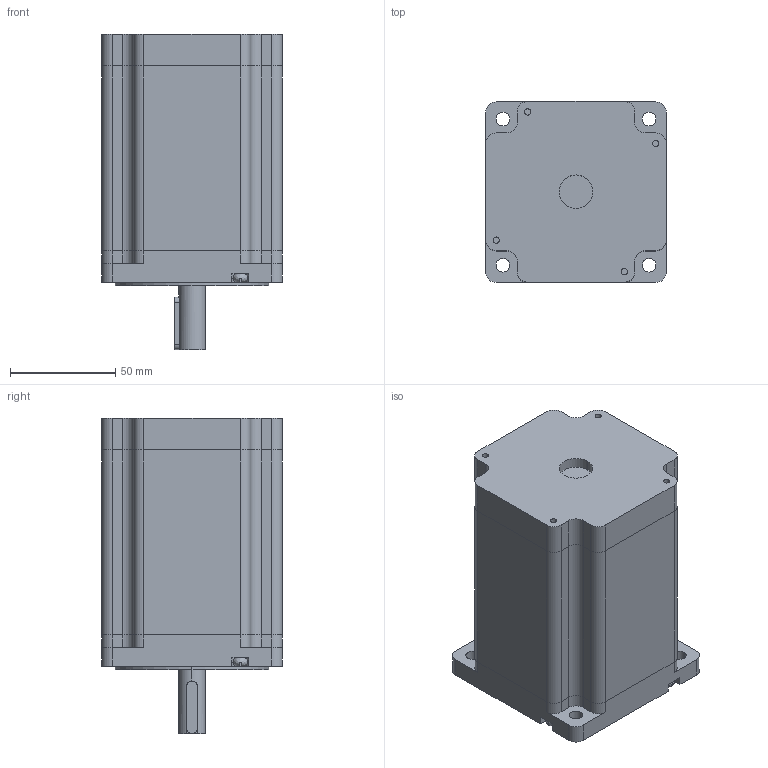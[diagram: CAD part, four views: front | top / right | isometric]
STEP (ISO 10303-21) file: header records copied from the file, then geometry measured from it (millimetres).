
FILE_DESCRIPTION (( 'STEP AP203' ), '1' );
FILE_NAME ('86J18118-842 (K).STEP', '2020-05-15T08:27:36', ( 'USER-' ), ( 'MS' ), 'SwSTEP 2.0', 'SolidWorks 2018', '' );
FILE_SCHEMA (( 'CONFIG_CONTROL_DESIGN' ));
Length unit declared in the file: millimetre
Products named in the file (7): 86____ ______^86J18118-842 (K)(2)_86J18118-842 (K); 86J18118-842 (K)(2)^86J18118-842 (K); 86J18118-842 (K); ____1^86J18118-842 (K)(2)_86J18118-842 (K); ____2^86J18118-842 (K)(2)_86J18118-842 (K); 86____^86J18118-842 (K)(2)_86J18118-842 (K); 86____-0^86J18118-842 (K)(2)_86J18118-842 (K)
Assembly tree (9 placements, depth 3):
  86J18118-842 (K)
    86J18118-842 (K)(2)^86J18118-842 (K)
      ____1^86J18118-842 (K)(2)_86J18118-842 (K)  x4
      ____2^86J18118-842 (K)(2)_86J18118-842 (K)
      86____^86J18118-842 (K)(2)_86J18118-842 (K)
      86____-0^86J18118-842 (K)(2)_86J18118-842 (K)
      86____ ______^86J18118-842 (K)(2)_86J18118-842 (K)
Bounding box: 86 x 86 x 150 mm (x, y, z)
Volume: 777554.7 mm3; surface area: 83202.8 mm2
Topology: 8 solids, 8 shells, 208 faces, 561 edges, 374 vertices
Faces by surface type: plane 126, cylinder 72, bspline 8, cone 2
Entity records: 6159 total; most frequent: CARTESIAN_POINT 1136, DIRECTION 916, ORIENTED_EDGE 870, EDGE_CURVE 435, AXIS2_PLACEMENT_3D 326, VERTEX_POINT 290, LINE 264, VECTOR 264
